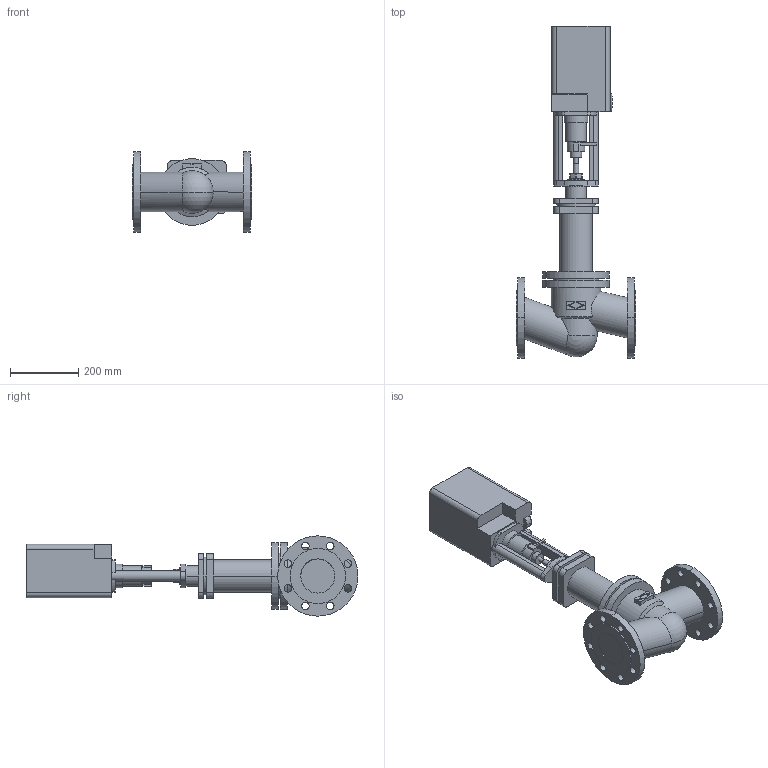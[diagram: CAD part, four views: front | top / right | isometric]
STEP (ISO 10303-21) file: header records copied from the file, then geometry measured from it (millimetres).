
FILE_DESCRIPTION(('CoCreate Modeling STEP Export'),'2;1');
FILE_NAME('c000004807.stp','2011-10-11T11:23:13',(''),(''),'CoCreate Modeling STEP processor for AP214 (Solid Model)','CoCreate Modeling 17.0 01-Apr-2010 (C) Parametric Technology GmbH','');
FILE_SCHEMA(('AUTOMOTIVE_DESIGN { 1 0 10303 214 1 1 1 1 }'));
Length unit declared in the file: millimetre
Products named in the file (2): 1; 2
Bounding box: 350 x 971.7 x 235 mm (x, y, z)
Volume: 16917626.8 mm3; surface area: 856439.3 mm2
Topology: 2 solids, 2 shells, 230 faces, 584 edges, 386 vertices
Faces by surface type: cylinder 117, plane 101, sphere 6, torus 4, cone 2
Entity records: 8533 total; most frequent: CARTESIAN_POINT 1360, ORIENTED_EDGE 1164, DIRECTION 1012, EDGE_CURVE 582, VERTEX_POINT 386, AXIS2_PLACEMENT_3D 355, VECTOR 302, LINE 302
